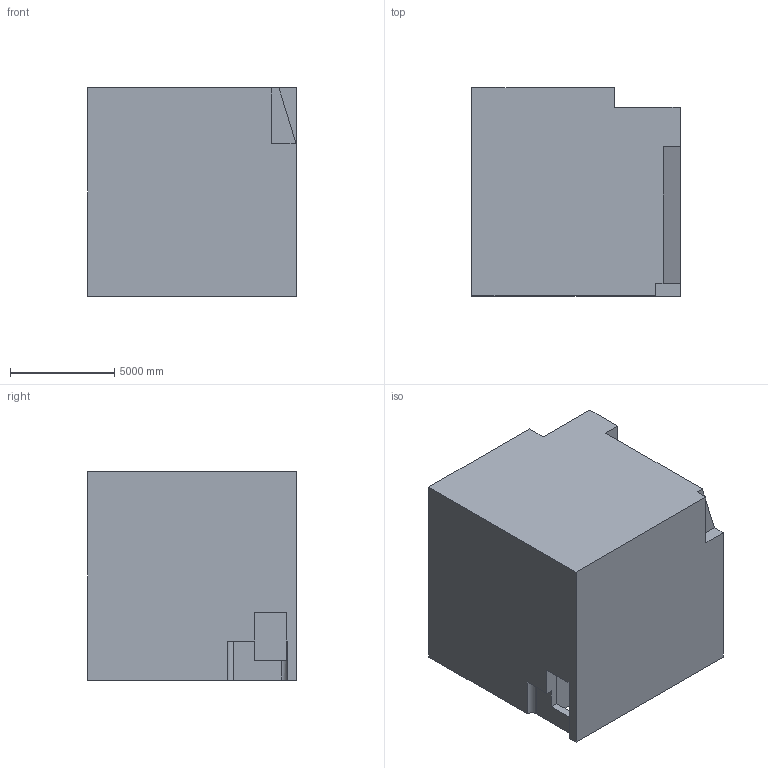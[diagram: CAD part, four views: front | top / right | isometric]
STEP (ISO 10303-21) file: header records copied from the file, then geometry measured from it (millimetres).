
FILE_DESCRIPTION (( 'STEP AP203' ), '1' );
FILE_NAME ('69.STEP', '2022-08-30T15:39:52', ( 'user' ), ( '' ), 'SwSTEP 2.0', 'SolidWorks 2021', '' );
FILE_SCHEMA (( 'CONFIG_CONTROL_DESIGN' ));
Length unit declared in the file: centimetre
Products named in the file (1): 69
Bounding box: 10000 x 10000 x 10000 mm (x, y, z)
Volume: 891386833415.7 mm3; surface area: 670754511.3 mm2
Topology: 1 solids, 1 shells, 33 faces, 95 edges, 63 vertices
Faces by surface type: plane 31, cylinder 2
Entity records: 1147 total; most frequent: CARTESIAN_POINT 192, ORIENTED_EDGE 190, DIRECTION 168, EDGE_CURVE 95, VECTOR 90, LINE 90, VERTEX_POINT 63, AXIS2_PLACEMENT_3D 39
